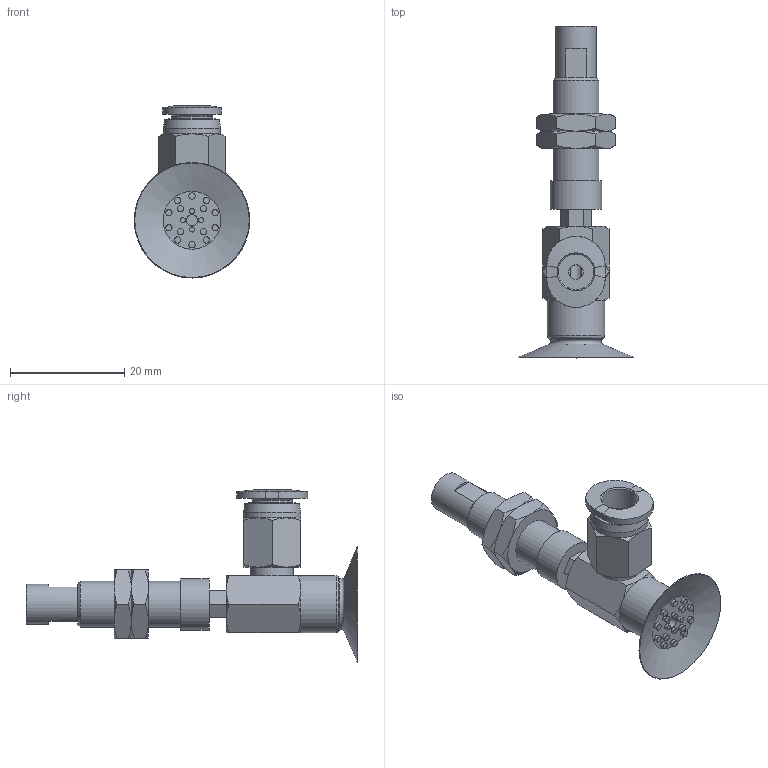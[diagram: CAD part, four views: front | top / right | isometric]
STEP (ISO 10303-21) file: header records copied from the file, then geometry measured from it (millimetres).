
FILE_DESCRIPTION(('STEP AP203'),'1');
FILE_NAME('-O.stp','2025-03-13T03:20:59',(' '),(' '),'Spatial InterOp 3D',' ',' ');
FILE_SCHEMA(('CONFIG_CONTROL_DESIGN'));
Length unit declared in the file: millimetre
Products named in the file (7): BNABPAYH-20A-3-※-O; NAPATH-20A-3--M; NAPATH-20A-3--F; Nut-10A-S; CONNECTOR-20A-3-PA; PC-C_06-M5; BPAG-20A-※
Assembly tree (7 placements, depth 2):
  BNABPAYH-20A-3-※-O
    NAPATH-20A-3--M
    NAPATH-20A-3--F
    Nut-10A-S  x2
    CONNECTOR-20A-3-PA
    PC-C_06-M5
    BPAG-20A-※
Bounding box: 20.19 x 58 x 30.07 mm (x, y, z)
Volume: 4516.2 mm3; surface area: 5774.8 mm2
Topology: 7 solids, 7 shells, 226 faces, 455 edges, 279 vertices
Faces by surface type: plane 98, cone 67, cylinder 42, torus 12, bspline 4, revolution 3
Full cylindrical faces by diameter (mm): 0.9 x4, 1.1 x14, 2 x2, 4 x4, 4.134 x2, 5 x2, 6 x2, 7 x2, 7.188 x2, 7.4 x1, 8 x1, 8.2 x1, 9 x1, 10 x2
Entity records: 5664 total; most frequent: CARTESIAN_POINT 1490, DIRECTION 801, ORIENTED_EDGE 658, AXIS2_PLACEMENT_3D 354, EDGE_CURVE 329, EDGE_LOOP 316, FACE_OUTER_BOUND 254, VERTEX_POINT 241
